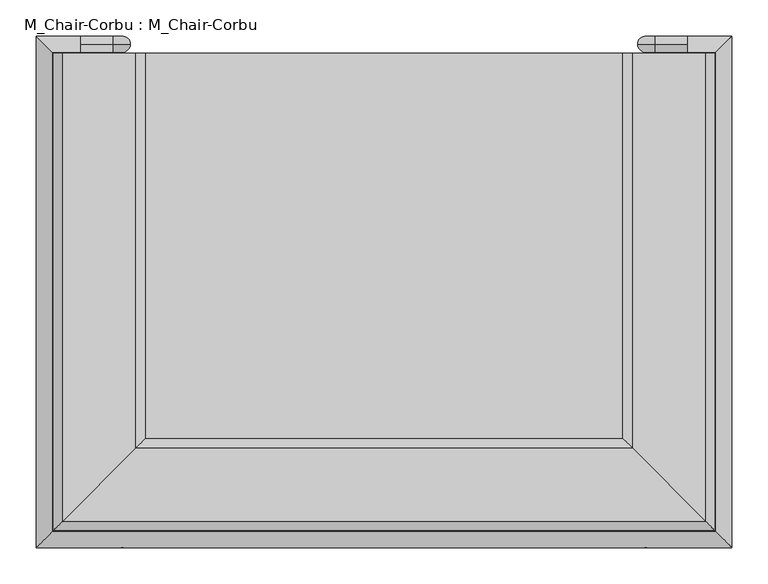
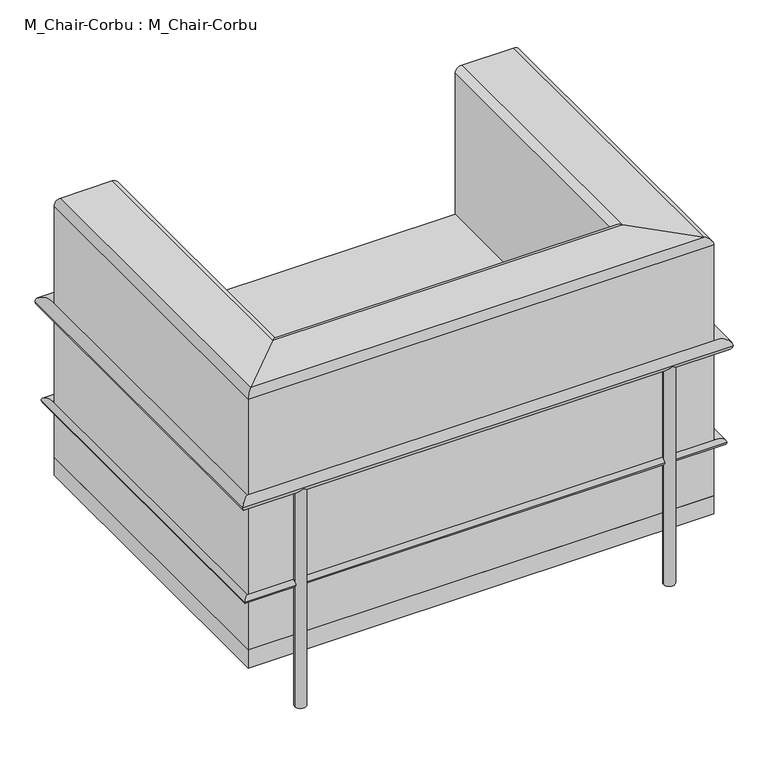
"""IFC4 building model written with IfcOpenShell, lengths in millimetres: furniture geometry, M_Chair-Corbu : M_Chair-Corbu."""

from ifc_helpers import new_model, si_unit, point, frame, frame_2d, origin, origin_with_axes, place, context, project, spatial, polyline, circle_curve, ellipse_curve, trimmed, segment, composite_curve, outline, extrude, source, transform, mapped, element, save
from ifc_brep_helpers import plane_surface, cylinder_surface, revolved_surface, advanced_brep


def m_chair_corbu_m_chair_corbu_af930865(model_context):
    return source(origin(), model_context, "Body", "SolidModel", [
        advanced_brep(
        [(115.8737705, -136.7770492, 139.7), (115.8737705, -136.7770492, 660.4), (128.5737705, -136.7770492, 673.1), (230.1737705, -136.7770492, 673.1), (242.8737705, -136.7770492, 660.4), (242.8737705, -136.7770492, 139.7), (242.8737705, -669.7770492, 139.7), (115.8737705, -796.7770492, 139.7), (242.8737705, -669.7770492, 660.4), (230.1737705, -682.4770492, 673.1), (128.5737705, -784.0770492, 673.1), (115.8737705, -796.7770492, 660.4), (903.8737705, -669.7770492, 139.7), (1030.8737705, -796.7770492, 139.7), (903.8737705, -669.7770492, 660.4), (916.5737705, -682.4770492, 673.1), (1018.1737705, -784.0770492, 673.1), (1030.8737705, -796.7770492, 660.4), (1030.8737705, -136.7770492, 139.7), (903.8737705, -136.7770492, 139.7), (903.8737705, -136.7770492, 660.4), (916.5737705, -136.7770492, 673.1), (1018.1737705, -136.7770492, 673.1), (1030.8737705, -136.7770492, 660.4)],
        [
            (0, 1),
            (1, 2, circle_curve(frame((128.5737705, -136.7770492, 660.4), z_axis=(0.0, 1.0, 0.0), x_axis=(-1.0, 0.0, 0.0)), 12.7)),
            (2, 3),
            (3, 4, circle_curve(frame((230.1737705, -136.7770492, 660.4), z_axis=(0.0, 1.0, 0.0), x_axis=(-1.0, 0.0, 0.0)), 12.7)),
            (4, 5),
            (5, 0),
            (5, 6),
            (6, 7),
            (7, 0),
            (4, 8),
            (8, 6),
            (3, 9),
            (9, 8, ellipse_curve(frame((230.1737705, -682.4770492, 660.4), z_axis=(-0.7071067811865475, 0.7071067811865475, 0.0), x_axis=(0.7071067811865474, 0.7071067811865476, 0.0)), 17.9605122, 12.7)),
            (2, 10),
            (10, 9),
            (1, 11),
            (11, 10, ellipse_curve(frame((128.5737705, -784.0770492, 660.4), z_axis=(-0.7071067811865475, 0.7071067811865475, 0.0), x_axis=(0.7071067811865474, 0.7071067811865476, 0.0)), 17.9605122, 12.7)),
            (7, 11),
            (6, 12),
            (12, 13),
            (13, 7),
            (8, 14),
            (14, 12),
            (9, 15),
            (15, 14, ellipse_curve(frame((916.5737705, -682.4770492, 660.4), z_axis=(-0.7071067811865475, -0.7071067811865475, 0.0), x_axis=(-0.7071067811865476, 0.7071067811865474, 0.0)), 17.9605122, 12.7)),
            (10, 16),
            (16, 15),
            (11, 17),
            (17, 16, ellipse_curve(frame((1018.1737705, -784.0770492, 660.4), z_axis=(-0.7071067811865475, -0.7071067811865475, 0.0), x_axis=(-0.7071067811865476, 0.7071067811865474, 0.0)), 17.9605122, 12.7)),
            (13, 17),
            (18, 19),
            (19, 20),
            (20, 21, circle_curve(frame((916.5737705, -136.7770492, 660.4), z_axis=(0.0, 1.0, 0.0), x_axis=(1.0, 0.0, 0.0)), 12.7)),
            (21, 22),
            (22, 23, circle_curve(frame((1018.1737705, -136.7770492, 660.4), z_axis=(0.0, 1.0, 0.0), x_axis=(1.0, 0.0, 0.0)), 12.7)),
            (23, 18),
            (12, 19),
            (18, 13),
            (14, 20),
            (15, 21),
            (16, 22),
            (17, 23),
        ],
        [
            plane_surface(frame((-566.8619763, -136.7770492, 0.0), z_axis=(0.0, 1.0, 0.0), x_axis=(0.0, 0.0, 1.0))),
            plane_surface(frame((115.8737705, -136.7770492, 139.7), z_axis=(0.0, 0.0, -1.0), x_axis=(0.0, -1.0, 0.0))),
            plane_surface(frame((242.8737705, -136.7770492, 139.7), z_axis=(1.0, 0.0, 0.0), x_axis=(0.0, -1.0, 0.0))),
            cylinder_surface(frame((230.1737705, -136.7770492, 660.4), z_axis=(0.0, 1.0, 0.0), x_axis=(-1.0, 0.0, 0.0)), 12.7),
            plane_surface(frame((230.1737705, -136.7770492, 673.1), z_axis=(0.0, 0.0, 1.0), x_axis=(0.0, -1.0, 0.0))),
            cylinder_surface(frame((128.5737705, -136.7770492, 660.4), z_axis=(0.0, 1.0, 0.0), x_axis=(-1.0, 0.0, 0.0)), 12.7),
            plane_surface(frame((115.8737705, -136.7770492, 660.4), z_axis=(-1.0, 0.0, 0.0), x_axis=(0.0, -1.0, 0.0))),
            plane_surface(frame((115.8737705, -796.7770492, 139.7), z_axis=(0.0, 0.0, -1.0), x_axis=(1.0, 0.0, 0.0))),
            plane_surface(frame((242.8737705, -669.7770492, 139.7), z_axis=(0.0, 1.0, 0.0), x_axis=(1.0, 0.0, 0.0))),
            cylinder_surface(frame((115.8737705, -682.4770492, 660.4), z_axis=(-1.0, 0.0, 0.0), x_axis=(0.0, -1.0, 0.0)), 12.7),
            plane_surface(frame((230.1737705, -682.4770492, 673.1), z_axis=(0.0, 0.0, 1.0), x_axis=(1.0, 0.0, 0.0))),
            cylinder_surface(frame((115.8737705, -784.0770492, 660.4), z_axis=(-1.0, 0.0, 0.0), x_axis=(0.0, -1.0, 0.0)), 12.7),
            plane_surface(frame((115.8737705, -796.7770492, 660.4), z_axis=(0.0, -1.0, 0.0), x_axis=(1.0, 0.0, 0.0))),
            plane_surface(frame((348.1380237, -136.7770492, 0.0), z_axis=(0.0, 1.0, 0.0), x_axis=(0.0, 0.0, -1.0))),
            plane_surface(frame((1030.8737705, -796.7770492, 139.7), z_axis=(0.0, 0.0, -1.0), x_axis=(0.0, 1.0, 0.0))),
            plane_surface(frame((903.8737705, -669.7770492, 139.7), z_axis=(-1.0, 0.0, 0.0), x_axis=(0.0, 1.0, 0.0))),
            cylinder_surface(frame((916.5737705, -796.7770492, 660.4), z_axis=(0.0, -1.0, 0.0), x_axis=(1.0, 0.0, 0.0)), 12.7),
            plane_surface(frame((916.5737705, -682.4770492, 673.1), z_axis=(0.0, 0.0, 1.0), x_axis=(0.0, 1.0, 0.0))),
            cylinder_surface(frame((1018.1737705, -796.7770492, 660.4), z_axis=(0.0, -1.0, 0.0), x_axis=(1.0, 0.0, 0.0)), 12.7),
            plane_surface(frame((1030.8737705, -796.7770492, 660.4), z_axis=(1.0, 0.0, 0.0), x_axis=(0.0, 1.0, 0.0))),
        ],
        [
            (0, [[1, 2, 3, 4, 5, 6]]),
            (1, [[7, 8, 9, -6]]),
            (2, [[10, 11, -7, -5]]),
            (3, [[12, 13, -10, -4]]),
            (4, [[14, 15, -12, -3]]),
            (5, [[16, 17, -14, -2]]),
            (6, [[-9, 18, -16, -1]]),
            (7, [[19, 20, 21, -8]]),
            (8, [[22, 23, -19, -11]]),
            (9, [[24, 25, -22, -13]]),
            (10, [[26, 27, -24, -15]]),
            (11, [[28, 29, -26, -17]]),
            (12, [[-21, 30, -28, -18]]),
            (13, [[31, 32, 33, 34, 35, 36]]),
            (14, [[37, -31, 38, -20]]),
            (15, [[39, -32, -37, -23]]),
            (16, [[40, -33, -39, -25]]),
            (17, [[41, -34, -40, -27]]),
            (18, [[42, -35, -41, -29]]),
            (19, [[-38, -36, -42, -30]]),
        ],
    ),
        advanced_brep(
        [(946.7362705, -124.0770492, 0.0), (924.5112705, -124.0770492, 0.0), (924.5112705, -124.0770492, 444.5), (946.7362705, -124.0770492, 444.5), (948.3237705, -124.0770492, 468.3125), (948.3237705, -124.0770492, 446.0875), (992.7737705, -124.0770492, 446.0875), (992.7737705, -124.0770492, 468.3125)],
        [
            (0, 1, circle_curve(frame((935.6237705, -124.0770492, 0.0), z_axis=(0.0, 0.0, -1.0), x_axis=(-1.0, 0.0, 0.0)), 11.1125)),
            (1, 0, circle_curve(frame((935.6237705, -124.0770492, 0.0), z_axis=(0.0, 0.0, -1.0), x_axis=(-1.0, 0.0, 0.0)), 11.1125)),
            (1, 2),
            (2, 3, circle_curve(frame((935.6237705, -124.0770492, 444.5), z_axis=(0.0, 0.0, -1.0), x_axis=(-1.0, 0.0, 0.0)), 11.1125)),
            (3, 0),
            (3, 2, circle_curve(frame((935.6237705, -124.0770492, 444.5), z_axis=(0.0, 0.0, -1.0), x_axis=(-1.0, 0.0, 0.0)), 11.1125)),
            (4, 5, circle_curve(frame((948.3237705, -124.0770492, 457.2), z_axis=(-1.0, 0.0, 0.0), x_axis=(0.0, 0.0, 1.0)), 11.1125)),
            (5, 3, circle_curve(frame((948.3237705, -124.0770492, 444.5), z_axis=(0.0, -1.0, 0.0), x_axis=(-1.0, 0.0, 0.0)), 1.5875)),
            (2, 4, circle_curve(frame((948.3237705, -124.0770492, 444.5), z_axis=(0.0, 1.0, 0.0), x_axis=(-1.0, 0.0, 0.0)), 23.8125)),
            (5, 4, circle_curve(frame((948.3237705, -124.0770492, 457.2), z_axis=(-1.0, 0.0, 0.0), x_axis=(0.0, 0.0, 1.0)), 11.1125)),
            (6, 7, circle_curve(frame((992.7737705, -124.0770492, 457.2), z_axis=(1.0, 0.0, 0.0), x_axis=(0.0, 0.0, 1.0)), 11.1125)),
            (7, 6, circle_curve(frame((992.7737705, -124.0770492, 457.2), z_axis=(1.0, 0.0, 0.0), x_axis=(0.0, 0.0, 1.0)), 11.1125)),
            (4, 7),
            (6, 5),
        ],
        [
            plane_surface(frame((935.6237705, -112.5909011, 0.0), z_axis=(0.0, 0.0, -1.0), x_axis=(1.0, 0.0, 0.0))),
            cylinder_surface(frame((935.6237705, -124.0770492, 0.0), z_axis=(0.0, 0.0, -1.0), x_axis=(-1.0, 0.0, 0.0)), 11.1125),
            revolved_surface(trimmed(ellipse_curve(frame((935.6237705, -124.0770492, 444.5), z_axis=(0.0, 0.0, 1.0), x_axis=(-1.0, 0.0, 0.0)), 11.1125, 11.1125), [point((946.7362705, -124.0770492, 444.5))], [point((924.5112705, -124.0770492, 444.5))], True, "CARTESIAN"), (948.3237705, -123.8770492, 444.5), (0.0, -1.0, 0.0)),
            revolved_surface(trimmed(ellipse_curve(frame((935.6237705, -124.0770492, 444.5), z_axis=(0.0, 0.0, 1.0), x_axis=(-1.0, 0.0, 0.0)), 11.1125, 11.1125), [point((924.5112705, -124.0770492, 444.5))], [point((946.7362705, -124.0770492, 444.5))], True, "CARTESIAN"), (948.3237705, -123.8770492, 444.5), (0.0, -1.0, 0.0)),
            plane_surface(frame((992.7737705, -123.8770492, 445.9138519), z_axis=(1.0, 0.0, 0.0), x_axis=(0.0, -1.0, 0.0))),
            cylinder_surface(frame((948.3237705, -124.0770492, 457.2), z_axis=(-1.0, 0.0, 0.0), x_axis=(0.0, 0.0, 1.0)), 11.1125),
        ],
        [
            (0, [[1, 2]]),
            (1, [[3, 4, 5, -2]]),
            (1, [[-5, 6, -3, -1]]),
            (2, [[7, 8, -4, 9]]),
            (3, [[10, -9, -6, -8]]),
            (4, [[11, 12]]),
            (5, [[13, -11, 14, -7]]),
            (5, [[-14, -12, -13, -10]]),
        ],
    ),
        advanced_brep(
        [(222.2362705, -124.0770492, 0.0), (200.0112705, -124.0770492, 0.0), (200.0112705, -124.0770492, 444.5), (222.2362705, -124.0770492, 444.5), (198.4237705, -124.0770492, 446.0875), (198.4237705, -124.0770492, 468.3125), (153.9737705, -124.0770492, 468.3125), (153.9737705, -124.0770492, 446.0875)],
        [
            (0, 1, circle_curve(frame((211.1237705, -124.0770492, 0.0), z_axis=(0.0, 0.0, -1.0), x_axis=(-1.0, 0.0, 0.0)), 11.1125)),
            (1, 0, circle_curve(frame((211.1237705, -124.0770492, 0.0), z_axis=(0.0, 0.0, -1.0), x_axis=(-1.0, 0.0, 0.0)), 11.1125)),
            (1, 2),
            (2, 3, circle_curve(frame((211.1237705, -124.0770492, 444.5), z_axis=(0.0, 0.0, -1.0), x_axis=(-1.0, 0.0, 0.0)), 11.1125)),
            (3, 0),
            (3, 2, circle_curve(frame((211.1237705, -124.0770492, 444.5), z_axis=(0.0, 0.0, -1.0), x_axis=(-1.0, 0.0, 0.0)), 11.1125)),
            (4, 5, circle_curve(frame((198.4237705, -124.0770492, 457.2), z_axis=(1.0, 0.0, 0.0), x_axis=(0.0, 0.0, -1.0)), 11.1125)),
            (5, 3, circle_curve(frame((198.4237705, -124.0770492, 444.5), z_axis=(0.0, 1.0, 0.0), x_axis=(1.0, 0.0, 0.0)), 23.8125)),
            (2, 4, circle_curve(frame((198.4237705, -124.0770492, 444.5), z_axis=(0.0, -1.0, 0.0), x_axis=(1.0, 0.0, 0.0)), 1.5875)),
            (5, 4, circle_curve(frame((198.4237705, -124.0770492, 457.2), z_axis=(1.0, 0.0, 0.0), x_axis=(0.0, 0.0, -1.0)), 11.1125)),
            (6, 7, circle_curve(frame((153.9737705, -124.0770492, 457.2), z_axis=(-1.0, 0.0, 0.0), x_axis=(0.0, 0.0, -1.0)), 11.1125)),
            (7, 6, circle_curve(frame((153.9737705, -124.0770492, 457.2), z_axis=(-1.0, 0.0, 0.0), x_axis=(0.0, 0.0, -1.0)), 11.1125)),
            (4, 7),
            (6, 5),
        ],
        [
            plane_surface(frame((211.1237705, -112.5909011, 0.0), z_axis=(0.0, 0.0, -1.0), x_axis=(1.0, 0.0, 0.0))),
            cylinder_surface(frame((211.1237705, -124.0770492, 0.0), z_axis=(0.0, 0.0, -1.0), x_axis=(-1.0, 0.0, 0.0)), 11.1125),
            revolved_surface(trimmed(ellipse_curve(frame((211.1237705, -124.0770492, 444.5), z_axis=(0.0, 0.0, 1.0), x_axis=(-1.0, 0.0, 0.0)), 11.1125, 11.1125), [point((222.2362705, -124.0770492, 444.5))], [point((200.0112705, -124.0770492, 444.5))], True, "CARTESIAN"), (198.4237705, -123.8770492, 444.5), (0.0, 1.0, 0.0)),
            revolved_surface(trimmed(ellipse_curve(frame((211.1237705, -124.0770492, 444.5), z_axis=(0.0, 0.0, 1.0), x_axis=(-1.0, 0.0, 0.0)), 11.1125, 11.1125), [point((200.0112705, -124.0770492, 444.5))], [point((222.2362705, -124.0770492, 444.5))], True, "CARTESIAN"), (198.4237705, -123.8770492, 444.5), (0.0, 1.0, 0.0)),
            plane_surface(frame((153.9737705, -123.8770492, 445.9138519), z_axis=(-1.0, 0.0, 0.0), x_axis=(0.0, 1.0, 0.0))),
            cylinder_surface(frame((198.4237705, -124.0770492, 457.2), z_axis=(1.0, 0.0, 0.0), x_axis=(0.0, 0.0, -1.0)), 11.1125),
        ],
        [
            (0, [[1, 2]]),
            (1, [[3, 4, 5, -2]]),
            (1, [[-5, 6, -3, -1]]),
            (2, [[7, 8, -4, 9]]),
            (3, [[10, -9, -6, -8]]),
            (4, [[11, 12]]),
            (5, [[13, -11, 14, -7]]),
            (5, [[-14, -12, -13, -10]]),
        ],
    ),
        advanced_brep(
        [(201.5987705, -133.6020492, 254.0), (201.5987705, -120.9020492, 254.0), (99.9987705, -120.9020492, 254.0), (112.6987705, -133.6020492, 254.0), (99.9987705, -812.6520492, 254.0), (112.6987705, -799.9520492, 254.0), (1046.7487705, -812.6520492, 254.0), (1034.0487705, -799.9520492, 254.0), (1046.7487705, -120.9020492, 254.0), (1034.0487705, -133.6020492, 254.0), (945.1487705, -133.6020492, 254.0), (945.1487705, -120.9020492, 254.0)],
        [
            (0, 1, circle_curve(frame((201.5987705, -127.2520492, 254.0), z_axis=(1.0, 0.0, 0.0), x_axis=(0.0, 1.0, 0.0)), 6.35)),
            (1, 0, circle_curve(frame((201.5987705, -127.2520492, 254.0), z_axis=(1.0, 0.0, 0.0), x_axis=(0.0, 1.0, 0.0)), 6.35)),
            (1, 2),
            (2, 3, ellipse_curve(frame((106.3487705, -127.2520492, 254.0), z_axis=(0.7071067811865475, 0.7071067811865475, 0.0), x_axis=(0.7071067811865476, -0.7071067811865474, 0.0)), 8.9802561, 6.35)),
            (3, 0),
            (3, 2, ellipse_curve(frame((106.3487705, -127.2520492, 254.0), z_axis=(0.7071067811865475, 0.7071067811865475, 0.0), x_axis=(0.7071067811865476, -0.7071067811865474, 0.0)), 8.9802561, 6.35)),
            (2, 4),
            (4, 5, ellipse_curve(frame((106.3487705, -806.3020492, 254.0), z_axis=(-0.7071067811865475, 0.7071067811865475, 0.0), x_axis=(0.7071067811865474, 0.7071067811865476, 0.0)), 8.9802561, 6.35)),
            (5, 3),
            (5, 4, ellipse_curve(frame((106.3487705, -806.3020492, 254.0), z_axis=(-0.7071067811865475, 0.7071067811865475, 0.0), x_axis=(0.7071067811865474, 0.7071067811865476, 0.0)), 8.9802561, 6.35)),
            (4, 6),
            (6, 7, ellipse_curve(frame((1040.3987705, -806.3020492, 254.0), z_axis=(-0.7071067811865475, -0.7071067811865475, 0.0), x_axis=(-0.7071067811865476, 0.7071067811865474, 0.0)), 8.9802561, 6.35)),
            (7, 5),
            (7, 6, ellipse_curve(frame((1040.3987705, -806.3020492, 254.0), z_axis=(-0.7071067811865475, -0.7071067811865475, 0.0), x_axis=(-0.7071067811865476, 0.7071067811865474, 0.0)), 8.9802561, 6.35)),
            (6, 8),
            (8, 9, ellipse_curve(frame((1040.3987705, -127.2520492, 254.0), z_axis=(0.7071067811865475, -0.7071067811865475, 0.0), x_axis=(-0.7071067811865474, -0.7071067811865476, 0.0)), 8.9802561, 6.35)),
            (9, 7),
            (9, 8, ellipse_curve(frame((1040.3987705, -127.2520492, 254.0), z_axis=(0.7071067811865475, -0.7071067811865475, 0.0), x_axis=(-0.7071067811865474, -0.7071067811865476, 0.0)), 8.9802561, 6.35)),
            (10, 11, circle_curve(frame((945.1487705, -127.2520492, 254.0), z_axis=(-1.0, 0.0, 0.0), x_axis=(0.0, 1.0, 0.0)), 6.35)),
            (11, 10, circle_curve(frame((945.1487705, -127.2520492, 254.0), z_axis=(-1.0, 0.0, 0.0), x_axis=(0.0, 1.0, 0.0)), 6.35)),
            (8, 11),
            (10, 9),
        ],
        [
            plane_surface(frame((201.5987705, -127.2520492, -259.5186838), z_axis=(1.0, 0.0, 0.0), x_axis=(0.0, 1.0, 0.0))),
            cylinder_surface(frame((201.5987705, -127.2520492, 254.0), z_axis=(1.0, 0.0, 0.0), x_axis=(0.0, 1.0, 0.0)), 6.35),
            cylinder_surface(frame((106.3487705, -127.2520492, 254.0), z_axis=(0.0, 1.0, 0.0), x_axis=(-1.0, 0.0, 0.0)), 6.35),
            cylinder_surface(frame((106.3487705, -806.3020492, 254.0), z_axis=(-1.0, 0.0, 0.0), x_axis=(0.0, -1.0, 0.0)), 6.35),
            cylinder_surface(frame((1040.3987705, -806.3020492, 254.0), z_axis=(0.0, -1.0, 0.0), x_axis=(1.0, 0.0, 0.0)), 6.35),
            plane_surface(frame((945.1487705, -127.2520492, -259.5186838), z_axis=(-1.0, 0.0, 0.0), x_axis=(0.0, 1.0, 0.0))),
            cylinder_surface(frame((1040.3987705, -127.2520492, 254.0), z_axis=(1.0, 0.0, 0.0), x_axis=(0.0, 1.0, 0.0)), 6.35),
        ],
        [
            (0, [[1, 2]]),
            (1, [[3, 4, 5, -2]]),
            (1, [[-5, 6, -3, -1]]),
            (2, [[7, 8, 9, -4]]),
            (2, [[-9, 10, -7, -6]]),
            (3, [[11, 12, 13, -8]]),
            (3, [[-13, 14, -11, -10]]),
            (4, [[15, 16, 17, -12]]),
            (4, [[-17, 18, -15, -14]]),
            (5, [[19, 20]]),
            (6, [[21, -19, 22, -16]]),
            (6, [[-22, -20, -21, -18]]),
        ],
    ),
        advanced_brep(
        [(153.9737705, -135.1895492, 457.2), (153.9737705, -112.9645492, 457.2), (92.0612705, -112.9645492, 457.2), (114.2862705, -135.1895492, 457.2), (92.0612705, -820.5895492, 457.2), (114.2862705, -798.3645492, 457.2), (1054.6862705, -820.5895492, 457.2), (1032.4612705, -798.3645492, 457.2), (1054.6862705, -112.9645492, 457.2), (1032.4612705, -135.1895492, 457.2), (992.7737705, -135.1895492, 457.2), (992.7737705, -112.9645492, 457.2)],
        [
            (0, 1, circle_curve(frame((153.9737705, -124.0770492, 457.2), z_axis=(1.0, 0.0, 0.0), x_axis=(0.0, 1.0, 0.0)), 11.1125)),
            (1, 0, circle_curve(frame((153.9737705, -124.0770492, 457.2), z_axis=(1.0, 0.0, 0.0), x_axis=(0.0, 1.0, 0.0)), 11.1125)),
            (1, 2),
            (2, 3, ellipse_curve(frame((103.1737705, -124.0770492, 457.2), z_axis=(0.7071067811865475, 0.7071067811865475, 0.0), x_axis=(0.7071067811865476, -0.7071067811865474, 0.0)), 15.7154482, 11.1125)),
            (3, 0),
            (3, 2, ellipse_curve(frame((103.1737705, -124.0770492, 457.2), z_axis=(0.7071067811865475, 0.7071067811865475, 0.0), x_axis=(0.7071067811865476, -0.7071067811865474, 0.0)), 15.7154482, 11.1125)),
            (2, 4),
            (4, 5, ellipse_curve(frame((103.1737705, -809.4770492, 457.2), z_axis=(-0.7071067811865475, 0.7071067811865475, 0.0), x_axis=(0.7071067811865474, 0.7071067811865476, 0.0)), 15.7154482, 11.1125)),
            (5, 3),
            (5, 4, ellipse_curve(frame((103.1737705, -809.4770492, 457.2), z_axis=(-0.7071067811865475, 0.7071067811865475, 0.0), x_axis=(0.7071067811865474, 0.7071067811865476, 0.0)), 15.7154482, 11.1125)),
            (4, 6),
            (6, 7, ellipse_curve(frame((1043.5737705, -809.4770492, 457.2), z_axis=(-0.7071067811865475, -0.7071067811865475, 0.0), x_axis=(-0.7071067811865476, 0.7071067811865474, 0.0)), 15.7154482, 11.1125)),
            (7, 5),
            (7, 6, ellipse_curve(frame((1043.5737705, -809.4770492, 457.2), z_axis=(-0.7071067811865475, -0.7071067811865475, 0.0), x_axis=(-0.7071067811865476, 0.7071067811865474, 0.0)), 15.7154482, 11.1125)),
            (6, 8),
            (8, 9, ellipse_curve(frame((1043.5737705, -124.0770492, 457.2), z_axis=(0.7071067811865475, -0.7071067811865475, 0.0), x_axis=(-0.7071067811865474, -0.7071067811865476, 0.0)), 15.7154482, 11.1125)),
            (9, 7),
            (9, 8, ellipse_curve(frame((1043.5737705, -124.0770492, 457.2), z_axis=(0.7071067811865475, -0.7071067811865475, 0.0), x_axis=(-0.7071067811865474, -0.7071067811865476, 0.0)), 15.7154482, 11.1125)),
            (10, 11, circle_curve(frame((992.7737705, -124.0770492, 457.2), z_axis=(-1.0, 0.0, 0.0), x_axis=(0.0, 1.0, 0.0)), 11.1125)),
            (11, 10, circle_curve(frame((992.7737705, -124.0770492, 457.2), z_axis=(-1.0, 0.0, 0.0), x_axis=(0.0, 1.0, 0.0)), 11.1125)),
            (8, 11),
            (10, 9),
        ],
        [
            plane_surface(frame((153.9737705, -124.0770492, -466.8567721), z_axis=(1.0, 0.0, 0.0), x_axis=(0.0, 1.0, 0.0))),
            cylinder_surface(frame((153.9737705, -124.0770492, 457.2), z_axis=(1.0, 0.0, 0.0), x_axis=(0.0, 1.0, 0.0)), 11.1125),
            cylinder_surface(frame((103.1737705, -124.0770492, 457.2), z_axis=(0.0, 1.0, 0.0), x_axis=(-1.0, 0.0, 0.0)), 11.1125),
            cylinder_surface(frame((103.1737705, -809.4770492, 457.2), z_axis=(-1.0, 0.0, 0.0), x_axis=(0.0, -1.0, 0.0)), 11.1125),
            cylinder_surface(frame((1043.5737705, -809.4770492, 457.2), z_axis=(0.0, -1.0, 0.0), x_axis=(1.0, 0.0, 0.0)), 11.1125),
            plane_surface(frame((992.7737705, -124.0770492, -466.8567721), z_axis=(-1.0, 0.0, 0.0), x_axis=(0.0, 1.0, 0.0))),
            cylinder_surface(frame((1043.5737705, -124.0770492, 457.2), z_axis=(1.0, 0.0, 0.0), x_axis=(0.0, 1.0, 0.0)), 11.1125),
        ],
        [
            (0, [[1, 2]]),
            (1, [[3, 4, 5, -2]]),
            (1, [[-5, 6, -3, -1]]),
            (2, [[7, 8, 9, -4]]),
            (2, [[-9, 10, -7, -6]]),
            (3, [[11, 12, 13, -8]]),
            (3, [[-13, 14, -11, -10]]),
            (4, [[15, 16, 17, -12]]),
            (4, [[-17, 18, -15, -14]]),
            (5, [[19, 20]]),
            (6, [[21, -19, 22, -16]]),
            (6, [[-22, -20, -21, -18]]),
        ],
    ),
        extrude(outline(polyline([(903.8737705, -669.7770492), (242.8737705, -669.7770492), (242.8737705, -136.7770492), (903.8737705, -136.7770492), (903.8737705, -669.7770492)])), frame((0.0, 0.0, 139.7), z_axis=(0.0, 0.0, 1.0), x_axis=(1.0, 0.0, 0.0)), (0.0, 0.0, 1.0), 228.6),
        extrude(outline(polyline([(1030.8737705, -796.7770492), (115.8737705, -796.7770492), (115.8737705, -136.7770492), (1030.8737705, -136.7770492), (1030.8737705, -796.7770492)])), frame((0.0, 0.0, 101.6), z_axis=(0.0, 0.0, 1.0), x_axis=(1.0, 0.0, 0.0)), (0.0, 0.0, 1.0), 38.1),
        extrude(outline(composite_curve([segment(trimmed(circle_curve(frame_2d((211.1237705, -809.4770492)), 11.1125), [point((200.0112705, -809.4770492))], [point((222.2362705, -809.4770492))], False, "CARTESIAN"), True, "CONTINUOUS"), segment(trimmed(circle_curve(frame_2d((211.1237705, -809.4770492)), 11.1125), [point((222.2362705, -809.4770492))], [point((200.0112705, -809.4770492))], False, "CARTESIAN"), True, "CONTINUOUS")], self_intersect=False)), origin_with_axes(), (0.0, 0.0, 1.0), 457.2),
        extrude(outline(composite_curve([segment(trimmed(circle_curve(frame_2d((935.6237705, -809.4770492)), 11.1125), [point((946.7362705, -809.4770492))], [point((924.5112705, -809.4770492))], False, "CARTESIAN"), True, "CONTINUOUS"), segment(trimmed(circle_curve(frame_2d((935.6237705, -809.4770492)), 11.1125), [point((924.5112705, -809.4770492))], [point((946.7362705, -809.4770492))], False, "CARTESIAN"), True, "CONTINUOUS")], self_intersect=False)), origin_with_axes(), (0.0, 0.0, 1.0), 457.2),
    ])


if __name__ == "__main__":
    model = new_model("IFC4")
    model_context = context("Model", 3, world=origin())
    ifc_project = project(units=[si_unit("LENGTHUNIT", "METRE", prefix="MILLI")], contexts=[model_context])
    site = spatial("IfcSite", under=ifc_project)
    building = spatial("IfcBuilding", under=site)
    placement = place(None, origin())
    m_chair_corbu_m_chair_corbu_shape = m_chair_corbu_m_chair_corbu_af930865(model_context)
    element("IfcFurniture", 1, ObjectType="M_Chair-Corbu : M_Chair-Corbu", at=placement, inside=building, context=model_context, shape_type="MappedRepresentation", body=[
        mapped(m_chair_corbu_m_chair_corbu_shape, transform((0.0, 0.0, 0.0), x_axis=(1.0, 0.0, 0.0), y_axis=(0.0, 1.0, 0.0), z_axis=(0.0, 0.0, 1.0))),
    ])
    save(model, "model.ifc")
